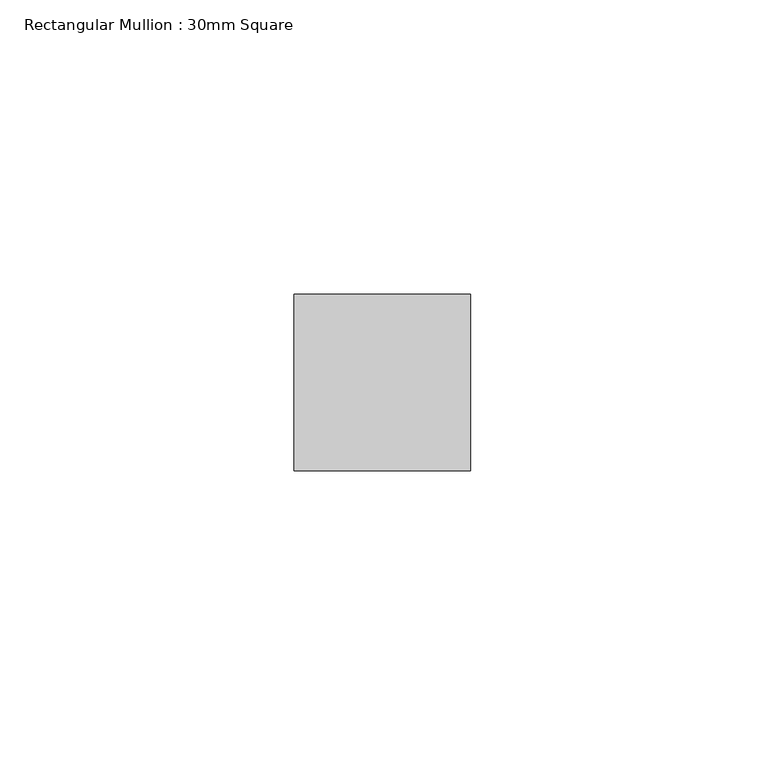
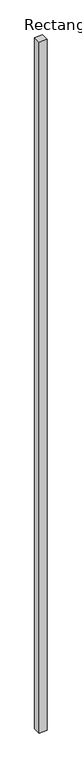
"""IFC4 building model written with IfcOpenShell, lengths in millimetres: member geometry, Rectangular Mullion : 30mm Square."""

import ifcopenshell
import ifcopenshell.guid

model = None  # the IFC model being written
_history = None  # IfcOwnerHistory: only IFC2X3 demands one
_inside = {}  # id of a spatial element -> (the spatial element, [elements in it])
_under = {}  # id of a project, library or spatial element -> (it, [spatial elements below it])
_declared = {}  # id of a project -> (the project, [libraries it declares])
_typed = {}  # id of a type object -> (the type object, [elements of that type])
_made_of = {}  # id of a material, layer set ... -> (it, [elements and type objects made of it])


def new_model(schema):
    """Start an empty IFC model of exactly this schema.

    Asked for "IFC4X3", IfcOpenShell would pick the latest addendum, in which some entities
    have other attributes; the version numbers below select the first issue.
    IFC2X3 requires an IfcOwnerHistory on every rooted entity: one is made here for all.
    """
    global model, _history
    if schema == "IFC4X3":
        model = ifcopenshell.file(schema_version=(4, 3, 0, 0))
    else:
        model = ifcopenshell.file(schema=schema)
    _inside.clear()
    _under.clear()
    _declared.clear()
    _typed.clear()
    _made_of.clear()
    _history = None
    if model.schema == "IFC2X3":
        org = make("IfcOrganization", Name="unknown")
        user = make(
            "IfcPersonAndOrganization",
            ThePerson=make("IfcPerson", FamilyName="unknown"),
            TheOrganization=org,
        )
        app = make(
            "IfcApplication",
            ApplicationDeveloper=org,
            Version="unknown",
            ApplicationFullName="unknown",
            ApplicationIdentifier="unknown",
        )
        _history = make(
            "IfcOwnerHistory",
            OwningUser=user,
            OwningApplication=app,
            ChangeAction="ADDED",
            CreationDate=0,
        )
    return model


def make(cls, **values):
    """One entity of the class cls with the attributes given. An attribute that is None is left unset."""
    return model.create_entity(
        cls, **{name: value for name, value in values.items() if value is not None}
    )


def rooted(cls, **values):
    """An entity with a GlobalId (a new one), such as an element, a storey or a relation."""
    return make(cls, GlobalId=ifcopenshell.guid.new(), OwnerHistory=_history, **values)


def si_unit(unit_type, name, prefix=None):
    """IfcSIUnit, for example si_unit("LENGTHUNIT", "METRE", prefix="MILLI")."""
    return make("IfcSIUnit", UnitType=unit_type, Prefix=prefix, Name=name)


def assignment(units):
    """IfcUnitAssignment: the units of a project."""
    return None if units is None else make("IfcUnitAssignment", Units=units)


def point(xyz):
    """IfcCartesianPoint."""
    return None if xyz is None else make("IfcCartesianPoint", Coordinates=xyz)


def direction(xyz):
    """IfcDirection."""
    return None if xyz is None else make("IfcDirection", DirectionRatios=xyz)


def frame(location, z_axis=None, x_axis=None):
    """IfcAxis2Placement3D, a coordinate frame: its origin and axes. An axis left out is left unset."""
    return make(
        "IfcAxis2Placement3D",
        Location=point(location),
        Axis=direction(z_axis),
        RefDirection=direction(x_axis),
    )


def origin():
    """The frame at (0, 0, 0) with its axes left unset."""
    return frame((0.0, 0.0, 0.0))


def place(relative_to, where):
    """IfcLocalPlacement: puts the frame where relative to a parent placement (None: the world)."""
    return make(
        "IfcLocalPlacement", PlacementRelTo=relative_to, RelativePlacement=where
    )


def context(
    kind, dimensions, precision=None, world=None, true_north=None, identifier=None
):
    """IfcGeometricRepresentationContext, for example the 3D "Model" context."""
    return make(
        "IfcGeometricRepresentationContext",
        ContextIdentifier=identifier,
        ContextType=kind,
        CoordinateSpaceDimension=dimensions,
        Precision=precision,
        WorldCoordinateSystem=world,
        TrueNorth=true_north,
    )


def project(units=None, contexts=None):
    """IfcProject with its units and contexts."""
    return rooted(
        "IfcProject",
        Name="project",
        RepresentationContexts=contexts,
        UnitsInContext=assignment(units),
    )


def spatial(cls, under=None, at=None, **own):
    """A site, building, storey or space (cls), placed at a placement, below another one or the project."""
    s = rooted(cls, ObjectPlacement=at, **own)
    if under is not None:
        _under.setdefault(under.id(), (under, []))[1].append(s)
    return s


def polyline(points):
    """IfcPolyline through the points."""
    return make("IfcPolyline", Points=[point(p) for p in points])


def outline(outer, holes=None, kind="AREA"):
    """IfcArbitraryClosedProfileDef: a profile drawn as a closed curve; with holes, ...WithVoids."""
    if holes is None:
        return make("IfcArbitraryClosedProfileDef", ProfileType=kind, OuterCurve=outer)
    return make(
        "IfcArbitraryProfileDefWithVoids",
        ProfileType=kind,
        OuterCurve=outer,
        InnerCurves=holes,
    )


def extrude(swept, where, along, depth):
    """IfcExtrudedAreaSolid: the profile swept, set in the frame where, extruded along a direction by depth."""
    return make(
        "IfcExtrudedAreaSolid",
        SweptArea=swept,
        Position=where,
        ExtrudedDirection=direction(along),
        Depth=depth,
    )


def shape(context_of_items, identifier, shape_type, items):
    """IfcShapeRepresentation: the items that make up one representation, for example the "Body"."""
    return make(
        "IfcShapeRepresentation",
        ContextOfItems=context_of_items,
        RepresentationIdentifier=identifier,
        RepresentationType=shape_type,
        Items=items,
    )


def source(mapping_origin, context_of_items, identifier, shape_type, items):
    """IfcRepresentationMap: a shape defined once, which mapped items show again and again."""
    return make(
        "IfcRepresentationMap",
        MappingOrigin=mapping_origin,
        MappedRepresentation=shape(context_of_items, identifier, shape_type, items),
    )


def transform(
    local_origin,
    x_axis=None,
    y_axis=None,
    z_axis=None,
    scale=None,
    scale2=None,
    scale3=None,
    uniform=True,
):
    """IfcCartesianTransformationOperator3D, or its non-uniform kind. x_axis, y_axis, z_axis: its Axis1, 2, 3."""
    if uniform:
        return make(
            "IfcCartesianTransformationOperator3D",
            Axis1=direction(x_axis),
            Axis2=direction(y_axis),
            LocalOrigin=point(local_origin),
            Scale=scale,
            Axis3=direction(z_axis),
        )
    return make(
        "IfcCartesianTransformationOperator3DnonUniform",
        Axis1=direction(x_axis),
        Axis2=direction(y_axis),
        LocalOrigin=point(local_origin),
        Scale=scale,
        Axis3=direction(z_axis),
        Scale2=scale2,
        Scale3=scale3,
    )


def mapped(mapping_source, mapping_target):
    """IfcMappedItem: shows the shape of a source again, moved by a transform."""
    return make(
        "IfcMappedItem", MappingSource=mapping_source, MappingTarget=mapping_target
    )


def made_of(thing, what):
    """Note that an element or type object is made of a material, layer set ...; save() writes the relation."""
    if what is not None:
        _made_of.setdefault(what.id(), (what, []))[1].append(thing)
    return thing


def element(
    cls,
    number,
    at=None,
    inside=None,
    cuts=None,
    type_object=None,
    material=None,
    context=None,
    identifier="Body",
    shape_type=None,
    held_by="IfcProductDefinitionShape",
    body=None,
    shapes=None,
    **own,
):
    """One element of the class cls, such as IfcWall. Its Tag is "e" and its number.

    at: its placement. inside: the storey or other place that contains it. cuts: it is an
    opening in that element (IfcRelVoidsElement). A single representation is given by context,
    identifier, shape_type and body (its items); several are given by shapes. held_by: the class
    of the entity that holds the representations. save() writes the other relations.
    """
    e = rooted(cls, Tag="e%d" % number, ObjectPlacement=at, **own)
    if body is not None:
        shapes = [shape(context, identifier, shape_type, body)]
    if shapes is not None:
        e.Representation = make(held_by, Representations=shapes)
    if inside is not None:
        _inside.setdefault(inside.id(), (inside, []))[1].append(e)
    if cuts is not None:
        rooted(
            "IfcRelVoidsElement", RelatingBuildingElement=cuts, RelatedOpeningElement=e
        )
    if type_object is not None:
        _typed.setdefault(type_object.id(), (type_object, []))[1].append(e)
    return made_of(e, material)


def aggregate(whole, parts):
    """IfcRelAggregates: a whole, such as a stair, and the parts it consists of."""
    return rooted("IfcRelAggregates", RelatingObject=whole, RelatedObjects=parts)


def save(model, path):
    """Write the relations noted so far, then the file.

    IfcRelAggregates (storeys below a building ...), IfcRelContainedInSpatialStructure (elements
    in a storey), IfcRelDefinesByType, IfcRelAssociatesMaterial and IfcRelDeclares: one each for
    every whole, place, type object, material and project.
    """
    for whole, parts in _under.values():
        aggregate(whole, parts)
    for where, things in _inside.values():
        rooted(
            "IfcRelContainedInSpatialStructure",
            RelatedElements=things,
            RelatingStructure=where,
        )
    for kind, things in _typed.values():
        rooted("IfcRelDefinesByType", RelatedObjects=things, RelatingType=kind)
    for what, things in _made_of.values():
        rooted("IfcRelAssociatesMaterial", RelatedObjects=things, RelatingMaterial=what)
    for by, libraries in _declared.values():
        rooted("IfcRelDeclares", RelatingContext=by, RelatedDefinitions=libraries)
    model.write(path)


def rectangular_mullion_30mm_square_fa3afb79(model_context):
    return source(origin(), model_context, "Body", "SweptSolid", [
        extrude(outline(polyline([(0.0, 15.0), (0.0, -15.0), (-30.0, -15.0), (-30.0, 15.0), (0.0, 15.0)])), frame((0.0, 0.0, -2759.9440869), z_axis=(0.0, 0.0, 1.0), x_axis=(1.0, 0.0, 0.0)), (0.0, 0.0, 1.0), 2759.9440869),
    ])


if __name__ == "__main__":
    model = new_model("IFC4")
    model_context = context("Model", 3, world=origin())
    ifc_project = project(units=[si_unit("LENGTHUNIT", "METRE", prefix="MILLI")], contexts=[model_context])
    site = spatial("IfcSite", under=ifc_project)
    building = spatial("IfcBuilding", under=site)
    placement = place(None, origin())
    rectangular_mullion_30mm_square_shape = rectangular_mullion_30mm_square_fa3afb79(model_context)
    element("IfcMember", 1, ObjectType="Rectangular Mullion : 30mm Square", at=placement, inside=building, context=model_context, shape_type="MappedRepresentation", body=[
        mapped(rectangular_mullion_30mm_square_shape, transform((0.0, 0.0, 0.0), x_axis=(1.0, 0.0, 0.0), y_axis=(0.0, 1.0, 0.0), z_axis=(0.0, 0.0, 1.0))),
    ])
    save(model, "model.ifc")
